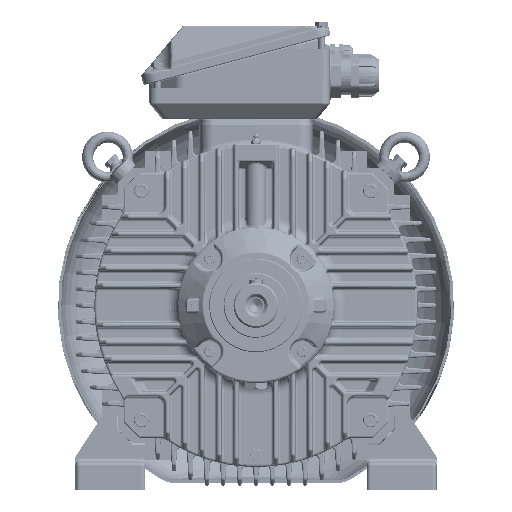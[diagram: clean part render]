
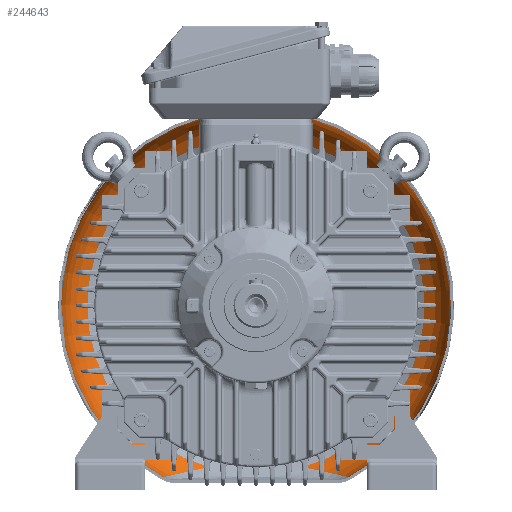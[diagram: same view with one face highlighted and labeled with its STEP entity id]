
A CAD part, front view. The second image highlights one B-rep face of the part: STEP entity #244643.
In plain terms, the highlighted toroidal (fillet/blend) face has major radius 173 mm and minor radius 65 mm.
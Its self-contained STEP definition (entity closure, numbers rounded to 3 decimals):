
#910=B_SPLINE_CURVE_WITH_KNOTS('',3,(#344119,#344120,#344121,#344122,#344123,
#344124,#344125,#344126,#344127,#344128,#344129,#344130,#344131,#344132),
 .UNSPECIFIED.,.F.,.F.,(4,1,1,1,1,1,1,1,1,1,1,4),(0.,0.011,
0.016,0.022,0.027,0.032,
0.043,0.049,0.054,0.065,
0.075,0.086),.UNSPECIFIED.);
#913=B_SPLINE_CURVE_WITH_KNOTS('',3,(#344212,#344213,#344214,#344215,#344216,
#344217,#344218,#344219,#344220,#344221,#344222,#344223,#344224,#344225,
#344226),.UNSPECIFIED.,.F.,.F.,(4,1,1,1,1,1,1,1,1,1,1,1,4),(0.203,
0.213,0.219,0.224,0.235,
0.246,0.251,0.257,0.267,0.273,
0.278,0.284,0.289),.UNSPECIFIED.);
#6015=TOROIDAL_SURFACE('',#256018,173.,65.);
#62552=ORIENTED_EDGE('',*,*,#102133,.T.);
#62553=ORIENTED_EDGE('',*,*,#102127,.T.);
#62554=ORIENTED_EDGE('',*,*,#101900,.F.);
#62555=ORIENTED_EDGE('',*,*,#102132,.T.);
#101900=EDGE_CURVE('',#123582,#123583,#132950,.T.);
#102127=EDGE_CURVE('',#123726,#123583,#910,.T.);
#102132=EDGE_CURVE('',#123582,#123731,#913,.T.);
#102133=EDGE_CURVE('',#123731,#123726,#133052,.T.);
#123582=VERTEX_POINT('',#343473);
#123583=VERTEX_POINT('',#343474);
#123726=VERTEX_POINT('',#344103);
#123731=VERTEX_POINT('',#344211);
#132950=CIRCLE('',#255821,205.5);
#133052=CIRCLE('',#256019,238.);
#144739=EDGE_LOOP('',(#62552,#62553,#62554,#62555));
#157336=FACE_BOUND('',#144739,.T.);
#244643=ADVANCED_FACE('',(#157336),#6015,.F.);
#255821=AXIS2_PLACEMENT_3D('',#343472,#287902,#287903);
#256018=AXIS2_PLACEMENT_3D('',#344227,#288380,#288381);
#256019=AXIS2_PLACEMENT_3D('',#344228,#288382,#288383);
#287902=DIRECTION('',(0.,-1.,0.));
#287903=DIRECTION('',(-1.,0.,0.));
#288380=DIRECTION('',(0.,-1.,0.));
#288381=DIRECTION('',(-1.,0.,0.));
#288382=DIRECTION('',(0.,-1.,0.));
#288383=DIRECTION('',(-1.,0.,0.));
#343472=CARTESIAN_POINT('',(0.,638.195,0.));
#343473=CARTESIAN_POINT('',(57.094,638.195,-197.409));
#343474=CARTESIAN_POINT('',(-57.094,638.195,-197.409));
#344103=CARTESIAN_POINT('',(-113.128,581.903,-209.394));
#344119=CARTESIAN_POINT('',(-113.128,581.903,-209.394));
#344120=CARTESIAN_POINT('',(-113.128,585.554,-209.394));
#344121=CARTESIAN_POINT('',(-112.459,590.895,-209.241));
#344122=CARTESIAN_POINT('',(-110.291,597.837,-208.746));
#344123=CARTESIAN_POINT('',(-108.092,602.783,-208.245));
#344124=CARTESIAN_POINT('',(-105.396,607.429,-207.631));
#344125=CARTESIAN_POINT('',(-101.144,613.287,-206.666));
#344126=CARTESIAN_POINT('',(-96.206,618.377,-205.551));
#344127=CARTESIAN_POINT('',(-90.694,622.852,-204.321));
#344128=CARTESIAN_POINT('',(-84.814,626.935,-203.025));
#344129=CARTESIAN_POINT('',(-77.103,631.19,-201.36));
#344130=CARTESIAN_POINT('',(-67.345,635.22,-199.346));
#344131=CARTESIAN_POINT('',(-60.523,637.298,-198.035));
#344132=CARTESIAN_POINT('',(-57.094,638.195,-197.409));
#344211=CARTESIAN_POINT('',(113.128,581.903,-209.394));
#344212=CARTESIAN_POINT('',(57.094,638.195,-197.409));
#344213=CARTESIAN_POINT('',(60.525,637.297,-198.035));
#344214=CARTESIAN_POINT('',(65.604,635.751,-199.011));
#344215=CARTESIAN_POINT('',(72.207,633.212,-200.35));
#344216=CARTESIAN_POINT('',(78.717,630.307,-201.708));
#344217=CARTESIAN_POINT('',(86.438,626.023,-203.376));
#344218=CARTESIAN_POINT('',(93.478,620.775,-204.94));
#344219=CARTESIAN_POINT('',(98.643,615.866,-206.101));
#344220=CARTESIAN_POINT('',(103.416,610.448,-207.18));
#344221=CARTESIAN_POINT('',(107.336,604.48,-208.073));
#344222=CARTESIAN_POINT('',(110.3,597.814,-208.748));
#344223=CARTESIAN_POINT('',(111.902,592.682,-209.114));
#344224=CARTESIAN_POINT('',(112.897,587.389,-209.341));
#344225=CARTESIAN_POINT('',(113.128,583.733,-209.394));
#344226=CARTESIAN_POINT('',(113.128,581.903,-209.394));
#344227=CARTESIAN_POINT('',(0.,581.903,0.));
#344228=CARTESIAN_POINT('',(0.,581.903,0.));
